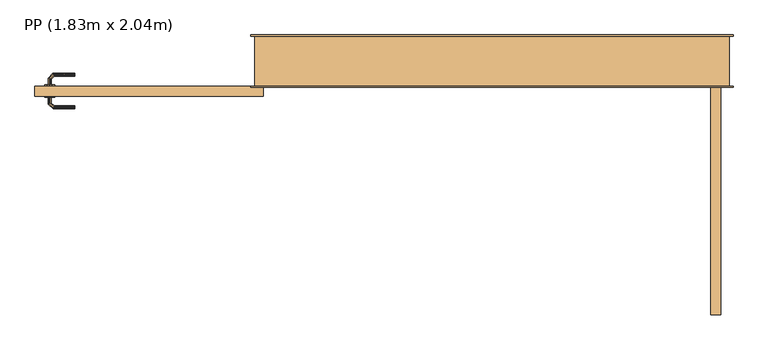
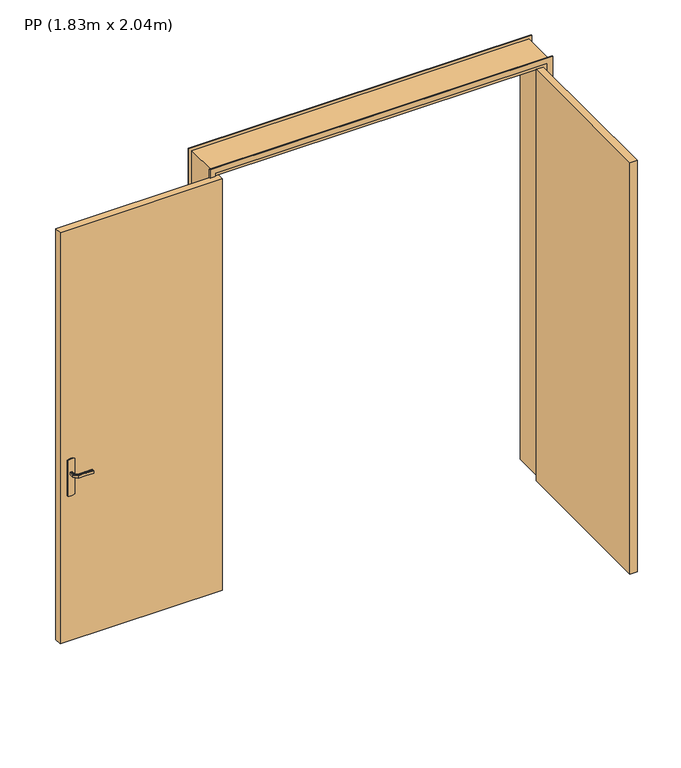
"""IFC4 building model written with IfcOpenShell, lengths in millimetres: door geometry, PP (1.83m x 2.04m)."""

import ifcopenshell
import ifcopenshell.guid

model = None  # the IFC model being written
_history = None  # IfcOwnerHistory: only IFC2X3 demands one
_inside = {}  # id of a spatial element -> (the spatial element, [elements in it])
_under = {}  # id of a project, library or spatial element -> (it, [spatial elements below it])
_declared = {}  # id of a project -> (the project, [libraries it declares])
_typed = {}  # id of a type object -> (the type object, [elements of that type])
_made_of = {}  # id of a material, layer set ... -> (it, [elements and type objects made of it])


def new_model(schema):
    """Start an empty IFC model of exactly this schema.

    Asked for "IFC4X3", IfcOpenShell would pick the latest addendum, in which some entities
    have other attributes; the version numbers below select the first issue.
    IFC2X3 requires an IfcOwnerHistory on every rooted entity: one is made here for all.
    """
    global model, _history
    if schema == "IFC4X3":
        model = ifcopenshell.file(schema_version=(4, 3, 0, 0))
    else:
        model = ifcopenshell.file(schema=schema)
    _inside.clear()
    _under.clear()
    _declared.clear()
    _typed.clear()
    _made_of.clear()
    _history = None
    if model.schema == "IFC2X3":
        org = make("IfcOrganization", Name="unknown")
        user = make(
            "IfcPersonAndOrganization",
            ThePerson=make("IfcPerson", FamilyName="unknown"),
            TheOrganization=org,
        )
        app = make(
            "IfcApplication",
            ApplicationDeveloper=org,
            Version="unknown",
            ApplicationFullName="unknown",
            ApplicationIdentifier="unknown",
        )
        _history = make(
            "IfcOwnerHistory",
            OwningUser=user,
            OwningApplication=app,
            ChangeAction="ADDED",
            CreationDate=0,
        )
    return model


def make(cls, **values):
    """One entity of the class cls with the attributes given. An attribute that is None is left unset."""
    return model.create_entity(
        cls, **{name: value for name, value in values.items() if value is not None}
    )


def rooted(cls, **values):
    """An entity with a GlobalId (a new one), such as an element, a storey or a relation."""
    return make(cls, GlobalId=ifcopenshell.guid.new(), OwnerHistory=_history, **values)


def si_unit(unit_type, name, prefix=None):
    """IfcSIUnit, for example si_unit("LENGTHUNIT", "METRE", prefix="MILLI")."""
    return make("IfcSIUnit", UnitType=unit_type, Prefix=prefix, Name=name)


def assignment(units):
    """IfcUnitAssignment: the units of a project."""
    return None if units is None else make("IfcUnitAssignment", Units=units)


def point(xyz):
    """IfcCartesianPoint."""
    return None if xyz is None else make("IfcCartesianPoint", Coordinates=xyz)


def direction(xyz):
    """IfcDirection."""
    return None if xyz is None else make("IfcDirection", DirectionRatios=xyz)


def frame(location, z_axis=None, x_axis=None):
    """IfcAxis2Placement3D, a coordinate frame: its origin and axes. An axis left out is left unset."""
    return make(
        "IfcAxis2Placement3D",
        Location=point(location),
        Axis=direction(z_axis),
        RefDirection=direction(x_axis),
    )


def origin():
    """The frame at (0, 0, 0) with its axes left unset."""
    return frame((0.0, 0.0, 0.0))


def origin_with_axes():
    """The frame at (0, 0, 0) with the z axis (0, 0, 1) and the x axis (1, 0, 0) written out."""
    return frame((0.0, 0.0, 0.0), z_axis=(0.0, 0.0, 1.0), x_axis=(1.0, 0.0, 0.0))


def place(relative_to, where):
    """IfcLocalPlacement: puts the frame where relative to a parent placement (None: the world)."""
    return make(
        "IfcLocalPlacement", PlacementRelTo=relative_to, RelativePlacement=where
    )


def context(
    kind, dimensions, precision=None, world=None, true_north=None, identifier=None
):
    """IfcGeometricRepresentationContext, for example the 3D "Model" context."""
    return make(
        "IfcGeometricRepresentationContext",
        ContextIdentifier=identifier,
        ContextType=kind,
        CoordinateSpaceDimension=dimensions,
        Precision=precision,
        WorldCoordinateSystem=world,
        TrueNorth=true_north,
    )


def project(units=None, contexts=None):
    """IfcProject with its units and contexts."""
    return rooted(
        "IfcProject",
        Name="project",
        RepresentationContexts=contexts,
        UnitsInContext=assignment(units),
    )


def spatial(cls, under=None, at=None, **own):
    """A site, building, storey or space (cls), placed at a placement, below another one or the project."""
    s = rooted(cls, ObjectPlacement=at, **own)
    if under is not None:
        _under.setdefault(under.id(), (under, []))[1].append(s)
    return s


def polyline(points):
    """IfcPolyline through the points."""
    return make("IfcPolyline", Points=[point(p) for p in points])


def outline(outer, holes=None, kind="AREA"):
    """IfcArbitraryClosedProfileDef: a profile drawn as a closed curve; with holes, ...WithVoids."""
    if holes is None:
        return make("IfcArbitraryClosedProfileDef", ProfileType=kind, OuterCurve=outer)
    return make(
        "IfcArbitraryProfileDefWithVoids",
        ProfileType=kind,
        OuterCurve=outer,
        InnerCurves=holes,
    )


def extrude(swept, where, along, depth):
    """IfcExtrudedAreaSolid: the profile swept, set in the frame where, extruded along a direction by depth."""
    return make(
        "IfcExtrudedAreaSolid",
        SweptArea=swept,
        Position=where,
        ExtrudedDirection=direction(along),
        Depth=depth,
    )


def faces_of(points, faces, orient=None, outer=None):
    """IfcFace entities. A face is a list of loops; a loop is a list of indices into points, from 0.

    orient and outer hold one flag for each loop. By default every Orientation is true, the
    first loop of a face is its IfcFaceOuterBound and the others are IfcFaceBound.
    """
    made = []
    for i, loops in enumerate(faces):
        bounds = []
        for j, loop in enumerate(loops):
            is_outer = j == 0 if outer is None else outer[i][j]
            bounds.append(
                make(
                    "IfcFaceOuterBound" if is_outer else "IfcFaceBound",
                    Bound=make("IfcPolyLoop", Polygon=[points[k] for k in loop]),
                    Orientation=True if orient is None else orient[i][j],
                )
            )
        made.append(make("IfcFace", Bounds=bounds))
    return made


def faceted_brep(points, faces, orient=None, outer=None, voids=None):
    """IfcFacetedBrep: a solid bounded by flat faces; with voids (closed shells), ...WithVoids."""
    shared = [point(p) for p in points]
    hull = make("IfcClosedShell", CfsFaces=faces_of(shared, faces, orient, outer))
    if voids is None:
        return make("IfcFacetedBrep", Outer=hull)
    return make(
        "IfcFacetedBrepWithVoids",
        Outer=hull,
        Voids=[
            make(cls, CfsFaces=faces_of(shared, fs, o, b)) for cls, fs, o, b in voids
        ],
    )


def shape(context_of_items, identifier, shape_type, items):
    """IfcShapeRepresentation: the items that make up one representation, for example the "Body"."""
    return make(
        "IfcShapeRepresentation",
        ContextOfItems=context_of_items,
        RepresentationIdentifier=identifier,
        RepresentationType=shape_type,
        Items=items,
    )


def source(mapping_origin, context_of_items, identifier, shape_type, items):
    """IfcRepresentationMap: a shape defined once, which mapped items show again and again."""
    return make(
        "IfcRepresentationMap",
        MappingOrigin=mapping_origin,
        MappedRepresentation=shape(context_of_items, identifier, shape_type, items),
    )


def transform(
    local_origin,
    x_axis=None,
    y_axis=None,
    z_axis=None,
    scale=None,
    scale2=None,
    scale3=None,
    uniform=True,
):
    """IfcCartesianTransformationOperator3D, or its non-uniform kind. x_axis, y_axis, z_axis: its Axis1, 2, 3."""
    if uniform:
        return make(
            "IfcCartesianTransformationOperator3D",
            Axis1=direction(x_axis),
            Axis2=direction(y_axis),
            LocalOrigin=point(local_origin),
            Scale=scale,
            Axis3=direction(z_axis),
        )
    return make(
        "IfcCartesianTransformationOperator3DnonUniform",
        Axis1=direction(x_axis),
        Axis2=direction(y_axis),
        LocalOrigin=point(local_origin),
        Scale=scale,
        Axis3=direction(z_axis),
        Scale2=scale2,
        Scale3=scale3,
    )


def mapped(mapping_source, mapping_target):
    """IfcMappedItem: shows the shape of a source again, moved by a transform."""
    return make(
        "IfcMappedItem", MappingSource=mapping_source, MappingTarget=mapping_target
    )


def made_of(thing, what):
    """Note that an element or type object is made of a material, layer set ...; save() writes the relation."""
    if what is not None:
        _made_of.setdefault(what.id(), (what, []))[1].append(thing)
    return thing


def element(
    cls,
    number,
    at=None,
    inside=None,
    cuts=None,
    type_object=None,
    material=None,
    context=None,
    identifier="Body",
    shape_type=None,
    held_by="IfcProductDefinitionShape",
    body=None,
    shapes=None,
    **own,
):
    """One element of the class cls, such as IfcWall. Its Tag is "e" and its number.

    at: its placement. inside: the storey or other place that contains it. cuts: it is an
    opening in that element (IfcRelVoidsElement). A single representation is given by context,
    identifier, shape_type and body (its items); several are given by shapes. held_by: the class
    of the entity that holds the representations. save() writes the other relations.
    """
    e = rooted(cls, Tag="e%d" % number, ObjectPlacement=at, **own)
    if body is not None:
        shapes = [shape(context, identifier, shape_type, body)]
    if shapes is not None:
        e.Representation = make(held_by, Representations=shapes)
    if inside is not None:
        _inside.setdefault(inside.id(), (inside, []))[1].append(e)
    if cuts is not None:
        rooted(
            "IfcRelVoidsElement", RelatingBuildingElement=cuts, RelatedOpeningElement=e
        )
    if type_object is not None:
        _typed.setdefault(type_object.id(), (type_object, []))[1].append(e)
    return made_of(e, material)


def aggregate(whole, parts):
    """IfcRelAggregates: a whole, such as a stair, and the parts it consists of."""
    return rooted("IfcRelAggregates", RelatingObject=whole, RelatedObjects=parts)


def save(model, path):
    """Write the relations noted so far, then the file.

    IfcRelAggregates (storeys below a building ...), IfcRelContainedInSpatialStructure (elements
    in a storey), IfcRelDefinesByType, IfcRelAssociatesMaterial and IfcRelDeclares: one each for
    every whole, place, type object, material and project.
    """
    for whole, parts in _under.values():
        aggregate(whole, parts)
    for where, things in _inside.values():
        rooted(
            "IfcRelContainedInSpatialStructure",
            RelatedElements=things,
            RelatingStructure=where,
        )
    for kind, things in _typed.values():
        rooted("IfcRelDefinesByType", RelatedObjects=things, RelatingType=kind)
    for what, things in _made_of.values():
        rooted("IfcRelAssociatesMaterial", RelatedObjects=things, RelatingMaterial=what)
    for by, libraries in _declared.values():
        rooted("IfcRelDeclares", RelatingContext=by, RelatedDefinitions=libraries)
    model.write(path)


def pp_1_83m_x_2_04m_6f37a9c2(model_context):
    return source(origin(), model_context, "Body", "SolidModel", [
        extrude(outline(polyline([(1085.3589838, -750.0), (1083.9960169, -760.3527618), (1080.0, -770.0), (870.0, -770.0), (866.0039831, -760.3527618), (864.6410162, -750.0), (866.0039831, -739.6472382), (870.0, -730.0), (1080.0, -730.0), (1083.9960169, -739.6472382), (1085.3589838, -750.0)])), frame((0.0, -45.0, 0.0), z_axis=(0.0, 1.0, 0.0), x_axis=(0.0, 0.0, 1.0)), (0.0, 0.0, 1.0), 5.0),
        extrude(outline(polyline([(0.0, 1985.0), (2500.0, 1985.0), (2500.0, 55.0), (0.0, 55.0), (0.0, 85.0), (2470.0, 85.0), (2470.0, 1955.0), (0.0, 1955.0), (0.0, 1985.0)])), frame((0.0, -5.0, 0.0), z_axis=(0.0, 1.0, 0.0), x_axis=(0.0, 0.0, 1.0)), (0.0, 0.0, 1.0), 5.0),
        extrude(outline(polyline([(0.0, 1985.0), (2500.0, 1985.0), (2500.0, 55.0), (0.0, 55.0), (0.0, 85.0), (2470.0, 85.0), (2470.0, 1955.0), (0.0, 1955.0), (0.0, 1985.0)])), frame((0.0, 200.0, 0.0), z_axis=(0.0, 1.0, 0.0), x_axis=(0.0, 0.0, 1.0)), (0.0, 0.0, 1.0), 5.0),
        extrude(outline(polyline([(1895.0, -915.0), (1895.0, 0.0), (1935.0, 0.0), (1935.0, -915.0), (1895.0, -915.0)])), origin_with_axes(), (0.0, 0.0, 1.0), 2450.0),
        faceted_brep([(-747.9747013, 5.0, 1007.7804408), (-752.0252987, 5.0, 1007.7804408), (-756.0, 5.0, 1007.0), (-756.0, 5.0, 993.0), (-752.0252987, 5.0, 992.2195592), (-747.9747013, 5.0, 992.2195592), (-744.0, 5.0, 993.0), (-744.0, 5.0, 1007.0), (-752.0252987, 31.0045755, 1007.7804408), (-756.0, 32.6509507, 1007.0), (-747.9747013, 29.3267632, 1007.7804408), (-734.2986025, 43.002862, 1007.7804408), (-735.9764148, 47.0534593, 1007.7804408), (-744.0, 27.680388, 1007.0), (-744.0, 27.680388, 993.0), (-747.9747013, 29.3267632, 992.2195592), (-752.0252987, 31.0045755, 992.2195592), (-735.9764148, 47.0534593, 992.2195592), (-734.2986025, 43.002862, 992.2195592), (-756.0, 32.6509507, 993.0), (-737.62279, 51.0281607, 1007.0), (-732.6522273, 39.0281607, 1007.0), (-732.6522273, 39.0281607, 993.0), (-737.62279, 51.0281607, 993.0), (-649.9813594, 51.0281607, 1007.0), (-649.9813594, 47.0534593, 1007.7804408), (-649.9813594, 43.002862, 1007.7804408), (-649.9813594, 39.0281607, 1007.0), (-649.9813594, 39.0281607, 993.0), (-649.9813594, 43.002862, 992.2195592), (-649.9813594, 47.0534593, 992.2195592), (-649.9813594, 51.0281607, 993.0), (-692.1399809, 45.0281607, 1007.8786868), (-697.6923028, 51.0281607, 1007.0), (-691.3167933, 39.0281607, 1007.0), (-691.3167933, 39.0281607, 993.0), (-692.1399811, 45.0281608, 992.1213132), (-697.6923104, 51.0281607, 993.0)], [[[0, 1, 2, 3, 4, 5, 6, 7]], [[2, 1, 8, 9]], [[1, 0, 10, 11, 12, 8]], [[0, 7, 13, 10]], [[14, 13, 7, 6]], [[5, 15, 14, 6]], [[5, 4, 16, 17, 18, 15]], [[3, 19, 16, 4]], [[9, 19, 3, 2]], [[9, 8, 12, 20]], [[10, 13, 21, 11]], [[22, 21, 13, 14]], [[14, 15, 18, 22]], [[16, 19, 23, 17]], [[20, 23, 19, 9]], [[24, 25, 26, 27, 28, 29, 30, 31]], [[32, 25, 33]], [[33, 25, 24]], [[33, 20, 12]], [[11, 34, 32]], [[34, 11, 21]], [[27, 26, 34]], [[32, 26, 25]], [[32, 34, 26]], [[32, 33, 12]], [[11, 32, 12]], [[21, 22, 35, 28, 27, 34]], [[36, 29, 35]], [[30, 36, 37]], [[18, 35, 22]], [[29, 28, 35]], [[30, 37, 31]], [[37, 17, 23]], [[36, 17, 37]], [[36, 18, 17]], [[36, 35, 18]], [[29, 36, 30]], [[23, 20, 33, 24, 31, 37]]]),
        faceted_brep([(1970.0, 0.0, 0.0), (1935.0, 0.0, 0.0), (1935.0, 40.0, 0.0), (1920.0, 40.0, 0.0), (1920.0, 200.0, 0.0), (1970.0, 200.0, 0.0), (1970.0, 200.0, 2485.0), (1970.0, 0.0, 2485.0), (1920.0, 200.0, 2435.0), (120.0, 200.0, 2435.0), (120.0, 200.0, 0.0), (70.0, 200.0, 0.0), (70.0, 200.0, 2485.0), (1920.0, 40.0, 2435.0), (1935.0, 40.0, 2450.0), (105.0, 40.0, 2450.0), (105.0, 40.0, 0.0), (120.0, 40.0, 0.0), (120.0, 40.0, 2435.0), (1935.0, 0.0, 2450.0), (70.0, 0.0, 2485.0), (70.0, 0.0, 0.0), (105.0, 0.0, 0.0), (105.0, 0.0, 2450.0)], [[[0, 1, 2, 3, 4, 5]], [[5, 6, 7, 0]], [[4, 8, 9, 10, 11, 12, 6, 5]], [[3, 13, 8, 4]], [[2, 14, 15, 16, 17, 18, 13, 3]], [[1, 19, 14, 2]], [[0, 7, 20, 21, 22, 23, 19, 1]], [[12, 11, 21, 20]], [[21, 11, 10, 17, 16, 22]], [[18, 17, 10, 9]], [[23, 22, 16, 15]], [[6, 12, 20, 7]], [[13, 18, 9, 8]], [[19, 23, 15, 14]]]),
        extrude(outline(polyline([(-810.0, -40.0), (-810.0, 0.0), (105.0, 0.0), (105.0, -40.0), (-810.0, -40.0)])), origin_with_axes(), (0.0, 0.0, 1.0), 2450.0),
        extrude(outline(polyline([(1080.0, -770.0), (870.0, -770.0), (866.0039831, -760.3527618), (864.6410162, -750.0), (866.0039831, -739.6472382), (870.0, -730.0), (1080.0, -730.0), (1083.9960169, -739.6472382), (1085.3589838, -750.0), (1083.9960169, -760.3527618), (1080.0, -770.0)])), frame((0.0, 0.0, 0.0), z_axis=(0.0, 1.0, 0.0), x_axis=(0.0, 0.0, 1.0)), (0.0, 0.0, 1.0), 5.0),
        faceted_brep([(-747.9747013, -45.0, 992.2195592), (-752.0252987, -45.0, 992.2195592), (-756.0, -45.0, 993.0), (-756.0, -45.0, 1007.0), (-752.0252987, -45.0, 1007.7804408), (-747.9747013, -45.0, 1007.7804408), (-744.0, -45.0, 1007.0), (-744.0, -45.0, 993.0), (-744.0, -67.4852045, 1007.0), (-744.0, -67.4852045, 993.0), (-747.9747013, -69.1315797, 1007.7804408), (-752.0252987, -70.8093921, 1007.7804408), (-735.8389062, -86.9957845, 1007.7804408), (-734.1610938, -82.9451872, 1007.7804408), (-756.0, -72.4557673, 1007.0), (-756.0, -72.4557673, 993.0), (-752.0252987, -70.8093921, 992.2195592), (-747.9747013, -69.1315797, 992.2195592), (-734.1610938, -82.9451872, 992.2195592), (-735.8389062, -86.9957845, 992.2195592), (-732.5147186, -78.9704859, 1007.0), (-732.5147186, -78.9704859, 993.0), (-737.4852814, -90.9704859, 1007.0), (-737.4852814, -90.9704859, 993.0), (-649.9542163, -82.9451872, 1007.7804408), (-649.9542163, -86.9957845, 1007.7804408), (-649.9542163, -90.9704859, 1007.0), (-649.9542163, -90.9704859, 993.0), (-649.9542163, -86.9957845, 992.2195592), (-649.9542163, -82.9451872, 992.2195592), (-649.9542163, -78.9704859, 993.0), (-649.9542163, -78.9704859, 1007.0), (-691.2344675, -78.9704859, 1007.0), (-691.2344794, -78.9704859, 993.0), (-692.0576551, -84.9704859, 1007.8786868), (-697.5547942, -90.9704859, 1007.0), (-697.5547957, -90.9704859, 993.0), (-692.0576549, -84.9704858, 992.1213132)], [[[0, 1, 2, 3, 4, 5, 6, 7]], [[8, 9, 7, 6]], [[5, 10, 8, 6]], [[5, 4, 11, 12, 13, 10]], [[3, 14, 11, 4]], [[14, 3, 2, 15]], [[2, 1, 16, 15]], [[1, 0, 17, 18, 19, 16]], [[0, 7, 9, 17]], [[20, 21, 9, 8]], [[8, 10, 13, 20]], [[14, 22, 12, 11]], [[23, 22, 14, 15]], [[15, 16, 19, 23]], [[17, 9, 21, 18]], [[24, 25, 26, 27, 28, 29, 30, 31]], [[21, 20, 32, 31, 30, 33]], [[34, 24, 32]], [[25, 34, 35]], [[13, 32, 20]], [[24, 31, 32]], [[25, 35, 26]], [[35, 12, 22]], [[34, 12, 35]], [[34, 13, 12]], [[34, 32, 13]], [[24, 34, 25]], [[22, 23, 36, 27, 26, 35]], [[37, 28, 36]], [[36, 28, 27]], [[36, 23, 19]], [[18, 33, 37]], [[33, 18, 21]], [[30, 29, 33]], [[37, 29, 28]], [[37, 33, 29]], [[37, 36, 19]], [[18, 37, 19]]]),
    ])


if __name__ == "__main__":
    model = new_model("IFC4")
    model_context = context("Model", 3, world=origin())
    ifc_project = project(units=[si_unit("LENGTHUNIT", "METRE", prefix="MILLI")], contexts=[model_context])
    site = spatial("IfcSite", under=ifc_project)
    building = spatial("IfcBuilding", under=site)
    placement = place(None, origin())
    pp_1_83m_x_2_04m_shape = pp_1_83m_x_2_04m_6f37a9c2(model_context)
    element("IfcDoor", 1, ObjectType="PP (1.83m x 2.04m)", at=placement, inside=building, context=model_context, shape_type="MappedRepresentation", body=[
        mapped(pp_1_83m_x_2_04m_shape, transform((0.0, 0.0, 0.0), x_axis=(1.0, 0.0, 0.0), y_axis=(0.0, 1.0, 0.0), z_axis=(0.0, 0.0, 1.0))),
    ])
    save(model, "model.ifc")
